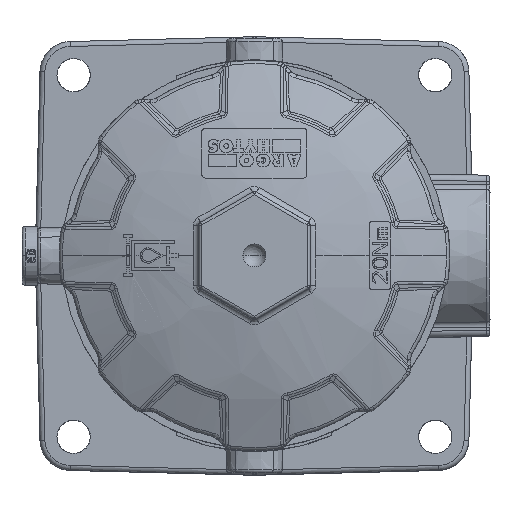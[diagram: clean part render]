
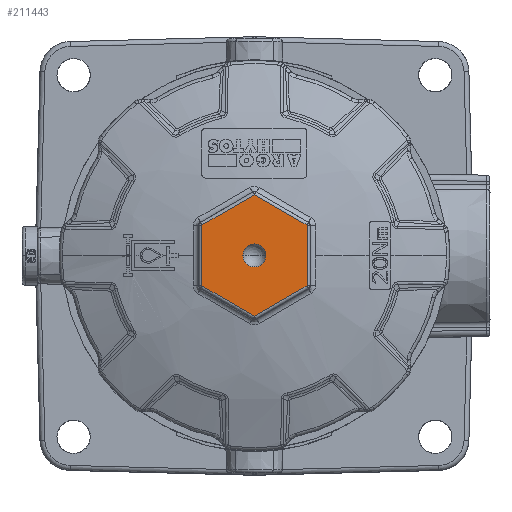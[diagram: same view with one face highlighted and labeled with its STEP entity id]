
A CAD part, top view. The second image highlights one B-rep face of the part: STEP entity #211443.
In plain terms, the highlighted planar face has unit normal (0, 0, 1).
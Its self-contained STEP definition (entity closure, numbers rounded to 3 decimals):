
#66682=DIRECTION('',(0.,1.,0.));
#66683=VECTOR('',#66682,19.588);
#66684=CARTESIAN_POINT('',(16.964,-9.794,39.04));
#66685=LINE('',#66684,#66683);
#66696=DIRECTION('',(0.866,-0.5,0.));
#66697=VECTOR('',#66696,19.588);
#66698=CARTESIAN_POINT('',(0.,19.588,39.04));
#66699=LINE('',#66698,#66697);
#66703=DIRECTION('',(-0.866,-0.5,0.));
#66704=VECTOR('',#66703,19.588);
#66705=CARTESIAN_POINT('',(16.964,-9.794,39.04));
#66706=LINE('',#66705,#66704);
#66710=DIRECTION('',(-0.866,0.5,0.));
#66711=VECTOR('',#66710,19.588);
#66712=CARTESIAN_POINT('',(0.,-19.588,39.04));
#66713=LINE('',#66712,#66711);
#66717=DIRECTION('',(0.866,0.5,0.));
#66718=VECTOR('',#66717,19.588);
#66719=CARTESIAN_POINT('',(-16.964,9.794,39.04));
#66720=LINE('',#66719,#66718);
#66724=CARTESIAN_POINT('',(0.,0.,39.04));
#66725=DIRECTION('',(0.,0.,1.));
#66726=DIRECTION('',(-1.,0.,0.));
#66727=AXIS2_PLACEMENT_3D('',#66724,#66725,#66726);
#66732=CARTESIAN_POINT('',(0.,0.,39.04));
#66733=DIRECTION('',(0.,0.,1.));
#66734=DIRECTION('',(1.,0.,0.));
#66735=AXIS2_PLACEMENT_3D('',#66732,#66733,#66734);
#66852=DIRECTION('',(0.,-1.,0.));
#66853=VECTOR('',#66852,19.588);
#66854=CARTESIAN_POINT('',(-16.964,9.794,39.04));
#66855=LINE('',#66854,#66853);
#84505=CARTESIAN_POINT('',(-16.964,-9.794,39.04));
#84506=VERTEX_POINT('',#84505);
#84507=CARTESIAN_POINT('',(-16.964,9.794,39.04));
#84508=VERTEX_POINT('',#84507);
#84509=CARTESIAN_POINT('',(0.,19.588,39.04));
#84510=CARTESIAN_POINT('',(16.964,9.794,39.04));
#84511=VERTEX_POINT('',#84509);
#84512=VERTEX_POINT('',#84510);
#84513=CARTESIAN_POINT('',(16.964,-9.794,39.04));
#84514=VERTEX_POINT('',#84513);
#84515=CARTESIAN_POINT('',(0.,-19.588,39.04));
#84516=VERTEX_POINT('',#84515);
#84517=CARTESIAN_POINT('',(-3.708,0.,39.04));
#84518=CARTESIAN_POINT('',(3.708,0.,39.04));
#84519=VERTEX_POINT('',#84517);
#84520=VERTEX_POINT('',#84518);
#211419=CARTESIAN_POINT('',(0.,0.,39.04));
#211420=DIRECTION('',(0.,0.,1.));
#211421=DIRECTION('',(-1.,0.,0.));
#211422=AXIS2_PLACEMENT_3D('',#211419,#211420,#211421);
#211423=PLANE('',#211422);
#211425=ORIENTED_EDGE('',*,*,#211424,.T.);
#211426=ORIENTED_EDGE('',*,*,#211403,.F.);
#211428=ORIENTED_EDGE('',*,*,#211427,.T.);
#211430=ORIENTED_EDGE('',*,*,#211429,.T.);
#211432=ORIENTED_EDGE('',*,*,#211431,.F.);
#211434=ORIENTED_EDGE('',*,*,#211433,.T.);
#211435=EDGE_LOOP('',(#211425,#211426,#211428,#211430,#211432,#211434));
#211436=FACE_OUTER_BOUND('',#211435,.F.);
#211438=ORIENTED_EDGE('',*,*,#211437,.T.);
#211440=ORIENTED_EDGE('',*,*,#211439,.T.);
#211441=EDGE_LOOP('',(#211438,#211440));
#211442=FACE_BOUND('',#211441,.F.);
#66728=CIRCLE('',#66727,3.708);
#66736=CIRCLE('',#66735,3.708);
#211403=EDGE_CURVE('',#84514,#84512,#66685,.T.);
#211424=EDGE_CURVE('',#84511,#84512,#66699,.T.);
#211427=EDGE_CURVE('',#84514,#84516,#66706,.T.);
#211429=EDGE_CURVE('',#84516,#84506,#66713,.T.);
#211431=EDGE_CURVE('',#84508,#84506,#66855,.T.);
#211433=EDGE_CURVE('',#84508,#84511,#66720,.T.);
#211437=EDGE_CURVE('',#84519,#84520,#66728,.T.);
#211439=EDGE_CURVE('',#84520,#84519,#66736,.T.);
#211443=ADVANCED_FACE('',(#211436,#211442),#211423,.T.);
